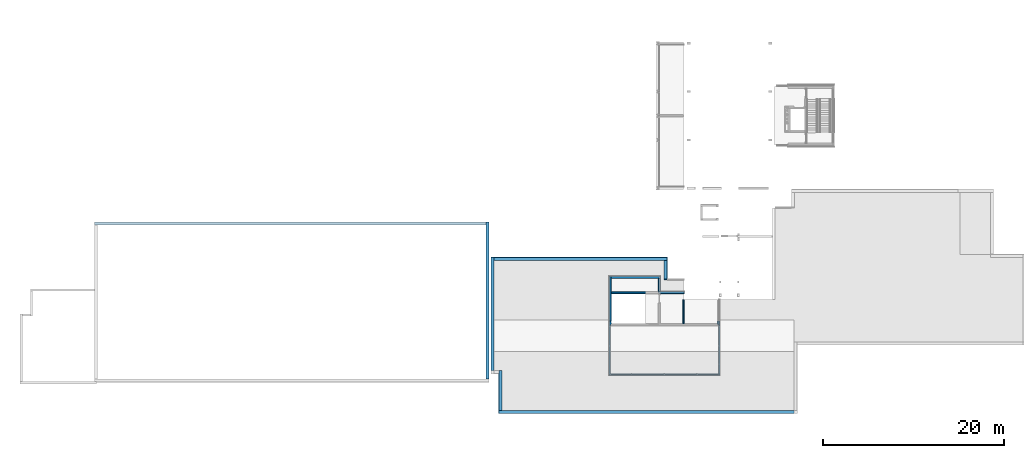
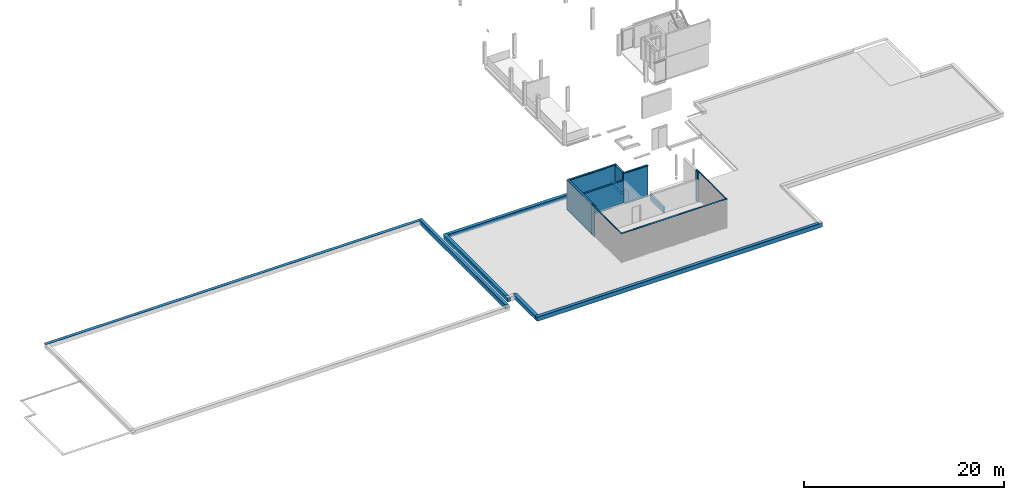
# One storey, part 4 of 22: 28 walls.
"""IFC2X3 building model written with IfcOpenShell, lengths in millimetres."""

from ifc_helpers import new_model, entity, si_unit, converted_unit, derived_unit, money_unit, direction, frame, origin_with_axes, place, context, subcontext, project, spatial, faceted_brep, material, type_object, element, save


model = new_model("IFC2X3")

# Units and contexts
model_context = context("Model", 3, precision=0.01, world=origin_with_axes(), true_north=direction((0.0, 1.0)))
body_context = subcontext(model_context, "Body", "Model", "MODEL_VIEW")
ifc_project = project(units=[si_unit("LENGTHUNIT", "METRE", prefix="MILLI"), si_unit("AREAUNIT", "SQUARE_METRE"), si_unit("VOLUMEUNIT", "CUBIC_METRE"), converted_unit("PLANEANGLEUNIT", "DEGREE", entity("IfcPlaneAngleMeasure", 0.0174532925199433), si_unit("PLANEANGLEUNIT", "RADIAN"), dimensions=[0, 0, 0, 0, 0, 0, 0]), money_unit("EUR"), converted_unit("TIMEUNIT", "Year", entity("IfcTimeMeasure", 31557600.0), si_unit("TIMEUNIT", "SECOND"), dimensions=[0, 0, 1, 0, 0, 0, 0]), si_unit("MASSUNIT", "GRAM", prefix="KILO"), si_unit("THERMODYNAMICTEMPERATUREUNIT", "DEGREE_CELSIUS"), si_unit("LUMINOUSINTENSITYUNIT", "LUMEN"), si_unit("ENERGYUNIT", "JOULE", prefix="MEGA"), derived_unit("THERMALCONDUCTANCEUNIT", [(si_unit("POWERUNIT", "WATT"), 1), (si_unit("LENGTHUNIT", "METRE"), -1), (si_unit("THERMODYNAMICTEMPERATUREUNIT", "KELVIN"), -1)]), derived_unit("SPECIFICHEATCAPACITYUNIT", [(si_unit("ENERGYUNIT", "JOULE"), 1), (si_unit("MASSUNIT", "GRAM", prefix="KILO"), -1), (si_unit("THERMODYNAMICTEMPERATUREUNIT", "KELVIN"), -1)]), derived_unit("MASSDENSITYUNIT", [(si_unit("MASSUNIT", "GRAM", prefix="KILO"), 1), (si_unit("VOLUMEUNIT", "CUBIC_METRE"), -1)])], contexts=[model_context])

# Site, building, storey
site_placement = place(None, origin_with_axes())
site = spatial("IfcSite", under=ifc_project, at=site_placement, Name="Site", CompositionType="ELEMENT")
building_placement = place(site_placement, origin_with_axes())
building = spatial("IfcBuilding", under=site, at=building_placement, Name="Naam gebouw", CompositionType="ELEMENT")
storey_placement = place(building_placement, frame((0.0, 0.0, 11150.0), z_axis=(0.0, 0.0, 1.0), x_axis=(1.0, 0.0, 0.0)))
storey = spatial("IfcBuildingStorey", under=building, at=storey_placement, Name="3e verdieping/dak N", CompositionType="ELEMENT", Elevation=11150.0)

# Walls
ifc_material_1 = material(Name="ALG - CONSTRUCTIEF")
wall_type_1 = type_object("IfcWallType", Name="ALG - CONSTRUCTIEF 200", PredefinedType="NOTDEFINED")
wall_1_placement = place(storey_placement, frame((20536.0, 16315.91242510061, 0.0), z_axis=(0.0, 0.0, 1.0), x_axis=(-1.0, 0.0, 0.0)))
element("IfcWall", 1, at=wall_1_placement, inside=storey, type_object=wall_type_1, material=ifc_material_1, Name="_Wand-x", context=body_context, shape_type="Brep", body=[
    faceted_brep([(2978.260226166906, -199.9999999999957, 0.0), (2978.260226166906, -199.9999999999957, 151.9999999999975), (3178.260226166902, -199.9999999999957, 151.9999999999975), (3178.260226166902, -199.9999999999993, 3740.0), (330.0000000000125, -199.9999999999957, 3740.0), (330.0000000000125, -199.9999999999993, 0.0), (2978.260226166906, 0.0, 0.0), (2978.260226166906, 0.0, 151.9999999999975), (3178.260226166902, 0.0, 151.9999999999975), (3178.260226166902, 0.0, 3740.0), (330.0000000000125, 0.0, 3740.0), (330.0000000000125, 0.0, 0.0)], [[[0, 1, 2, 3, 4, 5]], [[6, 7, 1, 0]], [[8, 2, 1, 7]], [[3, 2, 8, 9]], [[3, 9, 10, 4]], [[5, 4, 10, 11]], [[11, 6, 0, 5]], [[8, 7, 6, 11, 10, 9]]]),
])
wall_2_placement = place(storey_placement, frame((17357.7397738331, 18015.91242510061, 0.0), z_axis=(0.0, 0.0, 1.0), x_axis=(0.0, -1.0, 0.0)))
element("IfcWall", 2, at=wall_2_placement, inside=storey, type_object=wall_type_1, material=ifc_material_1, Name="_Wand-x", context=body_context, shape_type="Brep", body=[
    faceted_brep([(0.0, 199.9999999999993, 3740.0), (0.0, 0.0, 3740.0), (1500.0, 0.0, 3740.0), (1500.0, 199.9999999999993, 3740.0), (0.0, 199.9999999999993, 0.0), (0.0, 0.0, 0.0), (1499.999999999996, 0.0, 0.0), (1500.0, 0.0, 2880.000000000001), (1499.999999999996, 199.9999999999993, 0.0)], [[[0, 1, 2, 3]], [[4, 5, 1, 0]], [[5, 6, 7, 2, 1]], [[6, 8, 3, 2, 7]], [[4, 0, 3, 8]], [[5, 4, 8, 6]]]),
])
wall_3_placement = place(storey_placement, frame((17357.7397738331, 18015.91242510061, 0.0), z_axis=(0.0, 0.0, 1.0), x_axis=(-1.0, 0.0, 0.0)))
element("IfcWall", 3, at=wall_3_placement, inside=storey, type_object=wall_type_1, material=ifc_material_1, Name="_Wand-x", context=body_context, shape_type="Brep", body=[
    faceted_brep([(5199.999999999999, -199.9999999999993, 3740.0), (5199.999999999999, 0.0, 3740.0), (-199.9999999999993, 0.0, 3740.0), (-199.9999999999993, -199.9999999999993, 3740.0), (5199.999999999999, -199.9999999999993, 0.0), (5199.999999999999, 0.0, 0.0), (-199.9999999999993, 0.0, 0.0), (-199.9999999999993, -199.9999999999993, 0.0)], [[[0, 1, 2, 3]], [[1, 0, 4, 5]], [[1, 5, 6, 2]], [[7, 3, 2, 6]], [[4, 0, 3, 7]], [[5, 4, 7, 6]]]),
])
wall_4_placement = place(storey_placement, frame((20040.99999999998, 15670.91242510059, 0.0), z_axis=(0.0, 0.0, 1.0), x_axis=(0.0, -1.0, 0.0)))
element("IfcWall", 4, at=wall_4_placement, inside=storey, type_object=wall_type_1, material=ifc_material_1, Name="_Wand-x", context=body_context, shape_type="Brep", body=[
    faceted_brep([(2676.304385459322, 199.9999999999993, 0.0), (2676.304385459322, 0.0, 0.0), (0.0, 0.0, 0.0), (0.0, 199.9999999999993, 0.0), (2676.304385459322, 199.9999999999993, 699.9999999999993), (2676.304385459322, 0.0, 699.9999999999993), (0.0, 0.0, 699.9999999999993), (0.0, 199.9999999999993, 699.9999999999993)], [[[0, 1, 2, 3]], [[1, 0, 4, 5]], [[1, 5, 6, 2]], [[7, 3, 2, 6]], [[4, 0, 3, 7]], [[5, 4, 7, 6]]]),
])
wall_5_placement = place(storey_placement, frame((12157.7397738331, 18015.91242510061, 0.0), z_axis=(0.0, 0.0, 1.0), x_axis=(0.0, -1.0, 0.0)))
element("IfcWall", 5, at=wall_5_placement, inside=storey, type_object=wall_type_1, material=ifc_material_1, Name="_Wand-x", context=body_context, shape_type="Brep", body=[
    faceted_brep([(4724.999999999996, 0.0, 2880.000000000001), (4725.396955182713, -99.99999999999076, 2880.000000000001), (4725.396955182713, -99.99999999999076, 3080.0), (4724.999999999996, 0.0, 3080.0), (4724.999999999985, 0.0, 3740.0), (4725.793910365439, -199.9999999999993, 3740.0), (4725.793910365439, -199.9999999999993, 151.9999999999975), (4725.752488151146, -189.5650148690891, 151.9999999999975), (4725.752488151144, -189.5650148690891, 0.0), (4724.999999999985, 0.0, 0.0), (4724.999999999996, -99.99999999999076, 2880.000000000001), (4724.999999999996, -99.99999999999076, 3080.0), (-199.9999999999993, 0.0, 0.0), (-199.9999999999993, 0.0, 3740.0), (-199.9999999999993, -199.9999999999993, 3740.0), (4349.282488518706, -199.9999999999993, 0.0), (4349.282488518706, -199.9999999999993, 151.9999999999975), (-199.9999999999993, -199.9999999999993, 0.0)], [[[0, 1, 2, 3, 4, 5, 6, 7, 8, 9]], [[10, 1, 0]], [[11, 2, 1, 10]], [[11, 3, 2]], [[4, 3, 0, 9, 12, 13]], [[13, 14, 5, 4]], [[15, 16, 6, 5, 14, 17]], [[16, 7, 6]], [[8, 7, 16, 15]], [[9, 8, 15, 17, 12]], [[10, 0, 3, 11]], [[17, 14, 13, 12]]]),
])
wall_6_placement = place(storey_placement, frame((12157.7397738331, 13290.91242510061, 0.0), z_axis=(0.0, 0.0, 1.0), x_axis=(0.008006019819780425, -0.9999679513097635, 0.0)))
element("IfcWall", 6, at=wall_6_placement, inside=storey, type_object=wall_type_1, material=ifc_material_1, Name="_Wand-x", context=body_context, shape_type="Brep", body=[
    faceted_brep([(513.4010887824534, -178.253908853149, 2880.000000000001), (507.1048143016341, -104.063226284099, 2880.000000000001), (507.1048143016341, -104.063226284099, 3080.0), (496.4886617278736, 21.02973275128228, 3080.0), (496.4886617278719, 21.02973275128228, 3740.0), (513.4010887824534, -178.253908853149, 3740.0), (494.8808371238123, -179.7907887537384, 2880.000000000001), (495.4878775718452, -103.9702178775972, 2880.000000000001), (413.8185455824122, -103.3163506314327, 2880.000000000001), (-0.4036593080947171, -99.9999731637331, 2880.000000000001), (-0.4036593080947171, -99.9999731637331, 3080.0), (121.3672540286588, 0.0, 3080.0), (363.894408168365, 10.03099729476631, 3080.0), (0.0, 0.0, 3080.0), (363.894408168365, 10.03099729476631, 3740.0), (376.2901346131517, -189.6273060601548, 3740.0), (376.2901346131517, -189.6273060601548, 151.9999999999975), (494.8807865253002, -179.797108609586, 151.9999999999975), (296.6243121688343, 7.248685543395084, 2880.000000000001), (121.3672540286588, 0.0, 2880.000000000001), (0.0, 0.0, 2880.000000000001), (0.0, 0.0, 0.0), (-0.7651970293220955, -189.5649639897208, 0.0), (-0.7651970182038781, -189.5649639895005, 151.9999999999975), (-0.807318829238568, -199.9999463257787, 151.9999999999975), (-0.807318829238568, -199.9999463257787, 3740.0), (0.0, 0.0, 3740.0), (121.3672540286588, 0.0, 3740.0), (125.5015172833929, -200.0000000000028, 3740.0), (125.5015172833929, -200.0000000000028, 151.9999999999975), (0.0, -200.0000000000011, 151.9999999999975), (296.6243121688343, 7.248685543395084, 0.0), (494.8807865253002, -179.797108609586, 0.0), (368.2633340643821, -60.33941106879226, 0.0), (121.3672540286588, 0.0, 0.0), (0.0, -189.5498840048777, 0.0), (125.2344820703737, -187.0818476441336, 0.0), (375.8254966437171, -182.1433696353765, 0.0), (0.0, -200.0000000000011, 3740.0)], [[[0, 1, 2, 3, 4, 5]], [[6, 7, 1, 0]], [[8, 9, 10, 2, 1, 7]], [[11, 12, 3, 2, 10, 13]], [[4, 3, 12, 14]], [[14, 15, 5, 4]], [[5, 15, 16, 17, 6, 0]], [[6, 8, 7]], [[8, 18, 19, 20, 9]], [[10, 9, 20, 21, 22, 23, 24, 25, 26, 13]], [[14, 12, 11, 27]], [[27, 11, 13, 26]], [[28, 15, 14, 27]], [[15, 28, 29, 16]], [[24, 23, 17, 16, 29, 30]], [[31, 18, 8, 6, 17, 32, 33]], [[34, 19, 18, 31]], [[21, 20, 19, 34]], [[35, 22, 21]], [[36, 37, 32, 17, 23, 22, 35]], [[38, 25, 24, 30]], [[26, 25, 38]], [[38, 28, 27, 26]], [[28, 38, 30, 29]], [[32, 37, 33]], [[34, 31, 33, 37, 36]], [[35, 21, 34, 36]]]),
])
wall_type_2 = type_object("IfcWallType", Name="ALG - CONSTRUCTIEF 330", PredefinedType="NOTDEFINED")
wall_7_placement = place(storey_placement, frame((-770.0761052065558, 19995.81519889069, -99.99999999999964), z_axis=(0.0, 0.0, 1.0), x_axis=(0.0, -1.0, 0.0)))
element("IfcWall", 7, at=wall_7_placement, inside=storey, type_object=wall_type_2, material=ifc_material_1, Name="_Wand-x", context=body_context, shape_type="Brep", body=[
    faceted_brep([(12490.03535665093, 0.0, 0.0), (12300.22595577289, 0.0, 0.0), (12300.22595577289, 0.0, 99.99999999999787), (-100.0972262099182, 0.0, 99.99999999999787), (-100.0972262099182, 0.0, 0.0), (-330.0000000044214, 0.0, 0.0), (-330.0000000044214, 0.0, 500.0), (12490.03535665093, 0.0, 500.0), (-100.0972262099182, -114.3515342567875, 0.0), (12300.22595577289, -114.3515342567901, 0.0), (12490.03535665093, -330.0000000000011, 0.0), (-329.9982906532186, -329.9999999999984, 0.0), (12300.22595577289, -114.3515342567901, 99.99999999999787), (-100.0972262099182, -114.3515342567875, 99.99999999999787), (-329.9982906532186, -329.9999999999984, 500.0), (12490.03535665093, -330.0000000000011, 500.0)], [[[0, 1, 2, 3, 4, 5, 6, 7]], [[8, 9, 1, 0, 10, 11, 5, 4]], [[12, 2, 1, 9]], [[13, 3, 2, 12]], [[8, 4, 3, 13]], [[5, 11, 14, 6]], [[14, 15, 7, 6]], [[0, 7, 15, 10]], [[12, 9, 8, 13]], [[11, 10, 15, 14]]]),
])
wall_8_placement = place(storey_placement, frame((100.0000478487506, 3445.658971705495, -99.99999999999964), z_axis=(0.0, 0.0, 1.0), x_axis=(1.0, 0.0, 0.0)))
element("IfcWall", 8, at=wall_8_placement, inside=storey, type_object=wall_type_2, material=ifc_material_1, Name="_Wand-x", context=body_context, shape_type="Brep", body=[
    faceted_brep([(32299.99995215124, 0.0, 99.99999999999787), (-100.0000478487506, 0.0, 99.99999999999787), (-100.0000478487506, 0.0, 0.0), (-330.0000000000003, 0.0, 0.0), (-330.0000000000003, 0.0, 500.0), (32575.47021222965, 0.0, 500.0), (32575.47021222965, 0.0, 0.0), (32299.99995215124, 0.0, 0.0), (-100.0000478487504, -149.7465466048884, 99.99999999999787), (32299.99995215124, -149.7465466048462, 99.99999999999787), (-100.0000478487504, -149.7465466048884, 0.0), (32299.99995215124, -149.7465466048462, 0.0), (32575.47021222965, -329.9999999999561, 0.0), (-329.9999999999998, -330.000000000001, 0.0), (-329.9999999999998, -330.000000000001, 500.0), (32575.47021222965, -329.9999999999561, 500.0)], [[[0, 1, 2, 3, 4, 5, 6, 7]], [[8, 1, 0, 9]], [[10, 2, 1, 8]], [[10, 11, 7, 6, 12, 13, 3, 2]], [[3, 13, 14, 4]], [[14, 15, 5, 4]], [[6, 5, 15, 12]], [[9, 0, 7, 11]], [[9, 11, 10, 8]], [[13, 12, 15, 14]]]),
])
wall_9_placement = place(storey_placement, frame((17999.99828681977, 19995.91242510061, -99.99999999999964), z_axis=(0.0, 0.0, 1.0), x_axis=(-0.9999999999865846, -5.17985213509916e-06, 0.0)))
element("IfcWall", 9, at=wall_9_placement, inside=storey, type_object=wall_type_2, material=ifc_material_1, Name="_Wand-x", context=body_context, shape_type="Brep", body=[
    faceted_brep([(-164.4100515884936, 0.0, 0.0), (-164.4105695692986, -99.99914837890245, 0.0), (18770.07387378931, -100.0972262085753, 0.0), (18770.07268292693, -330.0000000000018, 0.0), (-330.0017093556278, -329.9999999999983, 0.0), (-330.000000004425, 0.0, 0.0), (-164.4105695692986, -99.99914837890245, 99.99999999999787), (-164.4100515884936, 0.0, 99.99999999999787), (18770.07387378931, -100.0972262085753, 99.99999999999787), (18770.07439227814, 0.0, 99.99999999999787), (18770.07439227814, 0.0, 500.0), (18770.07268292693, -330.0000000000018, 500.0), (-330.0017093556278, -329.9999999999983, 500.0), (-330.000000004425, 0.0, 500.0)], [[[0, 1, 2, 3, 4, 5]], [[6, 1, 0, 7]], [[8, 2, 1, 6]], [[2, 8, 9, 10, 11, 3]], [[4, 3, 11, 12]], [[5, 4, 12, 13]], [[9, 7, 0, 5, 13, 10]], [[6, 7, 9, 8]], [[12, 11, 10, 13]]]),
])
wall_10_placement = place(storey_placement, frame((-1679.99999997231, 6895.930935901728, -439.9999999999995), z_axis=(0.0, 0.0, 1.0), x_axis=(0.0, 1.0, 0.0)))
element("IfcWall", 10, at=wall_10_placement, inside=storey, type_object=wall_type_2, material=ifc_material_1, Name="_Wand-x", context=body_context, shape_type="Brep", body=[
    faceted_brep([(17319.64408847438, -329.9999999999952, 500.0), (17319.64408847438, 0.0, 500.0), (0.0, 0.0, 500.0), (0.002733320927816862, -329.9999999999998, 500.0), (17319.64408847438, -329.9999999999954, 0.0), (17319.64408847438, 0.0, 0.0), (0.0, 0.0, 0.0), (0.002733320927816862, -330.0000000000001, 0.0)], [[[0, 1, 2, 3]], [[1, 0, 4, 5]], [[1, 5, 6, 2]], [[7, 3, 2, 6]], [[4, 0, 3, 7]], [[5, 4, 7, 6]]]),
])
ifc_material_2 = material(Name="ALG - BINNENBLAD")
wall_type_3 = type_object("IfcWallType", Name="ALG - BINNENBLAD 200", PredefinedType="NOTDEFINED")
wall_11_placement = place(storey_placement, frame((17357.7397738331, 16315.91242510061, 0.0), z_axis=(0.0, 0.0, 1.0), x_axis=(-1.0, 0.0, 0.0)))
element("IfcWall", 11, at=wall_11_placement, inside=storey, type_object=wall_type_3, material=ifc_material_2, Name="_Wand-x", context=body_context, shape_type="Brep", body=[
    faceted_brep([(0.0, 0.0, 2880.000000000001), (0.0, 0.0, 153.9999999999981), (0.0, -199.9999999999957, 153.9999999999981), (0.0, -199.9999999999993, 2880.000000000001), (1417.239255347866, 0.0, 0.0), (1417.239255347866, 0.0, 153.9999999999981), (5199.999999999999, 0.0, 2880.000000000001), (5199.999999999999, 0.0, 0.0), (1417.239255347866, -199.9999999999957, 153.9999999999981), (1417.239255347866, -199.9999999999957, 0.0), (5199.999999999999, -199.9999999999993, 0.0), (5199.999999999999, -199.9999999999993, 2880.000000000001)], [[[0, 1, 2, 3]], [[4, 5, 1, 0, 6, 7]], [[5, 8, 2, 1]], [[2, 8, 9, 10, 11, 3]], [[11, 6, 0, 3]], [[9, 8, 5, 4]], [[11, 10, 7, 6]], [[10, 9, 4, 7]]]),
])
ifc_material_3 = material(Name="ALG - BUITENAFWERKING")
wall_type_4 = type_object("IfcWallType", Name="ALG - BUITENAFWERKING 360", PredefinedType="NOTDEFINED")
wall_12_placement = place(storey_placement, frame((100.0000478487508, 7835.779842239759, 400.0000000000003), z_axis=(0.0, 0.0, 1.0), x_axis=(0.0, -1.0, 0.0)))
element("IfcWall", 12, at=wall_12_placement, inside=storey, type_object=wall_type_4, material=ifc_material_3, Name="_Wand-x", context=body_context, shape_type="Brep", body=[
    faceted_brep([(4390.137933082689, -360.0000000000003, 25.00000000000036), (4390.134951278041, 0.0, 25.00000000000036), (0.0, 0.0, 25.00000000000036), (0.0, -360.0, 25.00000000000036), (4390.137933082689, -360.0000000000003, 0.0), (4390.134951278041, 0.0, 0.0), (0.0, 0.0, 0.0), (0.0, -360.0, 0.0)], [[[0, 1, 2, 3]], [[1, 0, 4, 5]], [[1, 5, 6, 2]], [[7, 3, 2, 6]], [[4, 0, 3, 7]], [[5, 4, 7, 6]]]),
])
wall_13_placement = place(storey_placement, frame((17999.99828681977, 19995.91242510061, 400.0000000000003), z_axis=(0.0, 0.0, 1.0), x_axis=(0.0, -1.0, 0.0)))
element("IfcWall", 13, at=wall_13_placement, inside=storey, type_object=wall_type_4, material=ifc_material_3, Name="_Wand-x", context=body_context, shape_type="Brep", body=[
    faceted_brep([(2171.161198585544, 359.9999999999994, 0.0), (2171.161198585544, 0.0, 0.0), (0.0, 0.0, 0.0), (-0.001864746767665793, 359.9999999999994, 0.0), (2171.161198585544, 359.9999999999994, 25.00000000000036), (2171.161198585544, 0.0, 25.00000000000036), (0.0, 0.0, 25.00000000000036), (-0.001864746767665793, 359.9999999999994, 25.00000000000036)], [[[0, 1, 2, 3]], [[1, 0, 4, 5]], [[1, 5, 6, 2]], [[7, 3, 2, 6]], [[4, 0, 3, 7]], [[5, 4, 7, 6]]]),
])
wall_14_placement = place(storey_placement, frame((100.0000478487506, 3445.644890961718, 400.0000000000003), z_axis=(0.0, 0.0, 1.0), x_axis=(0.9999999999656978, 8.282790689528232e-06, 0.0)))
element("IfcWall", 14, at=wall_14_placement, inside=storey, type_object=wall_type_4, material=ifc_material_3, Name="_Wand-x", context=body_context, shape_type="Brep", body=[
    faceted_brep([(32245.4672293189, -360.2670824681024, 25.00000000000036), (32245.47021112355, -0.2670824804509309, 25.00000000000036), (-359.9999999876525, 0.002981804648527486, 25.00000000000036), (-360.0029817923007, -359.9970181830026, 25.00000000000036), (32245.4672293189, -360.2670824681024, 0.0), (32245.47021112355, -0.2670824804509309, 0.0), (-359.9999999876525, 0.002981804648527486, 0.0), (-360.0029817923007, -359.9970181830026, 0.0)], [[[0, 1, 2, 3]], [[1, 0, 4, 5]], [[1, 5, 6, 2]], [[7, 3, 2, 6]], [[4, 0, 3, 7]], [[5, 4, 7, 6]]]),
])
wall_15_placement = place(storey_placement, frame((-770.0761052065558, 19995.81519889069, 400.0000000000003), z_axis=(0.0, 0.0, 1.0), x_axis=(0.0, -1.0, 0.0)))
element("IfcWall", 15, at=wall_15_placement, inside=storey, type_object=wall_type_4, material=ifc_material_3, Name="_Wand-x", context=body_context, shape_type="Brep", body=[
    faceted_brep([(12160.03535665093, -360.0000000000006, 25.00000000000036), (12160.03535665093, 0.0, 25.00000000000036), (-360.0000000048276, 0.0, 25.00000000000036), (-359.9981352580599, -360.0, 25.00000000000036), (12160.03535665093, -360.0000000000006, 0.0), (12160.03535665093, 0.0, 0.0), (-360.0000000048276, 0.0, 0.0), (-359.9981352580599, -360.0, 0.0)], [[[0, 1, 2, 3]], [[1, 0, 4, 5]], [[1, 5, 6, 2]], [[7, 3, 2, 6]], [[4, 0, 3, 7]], [[5, 4, 7, 6]]]),
])
wall_16_placement = place(storey_placement, frame((17999.99828681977, 19995.91242510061, 400.0000000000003), z_axis=(0.0, 0.0, 1.0), x_axis=(-0.9999999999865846, -5.17985213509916e-06, 0.0)))
element("IfcWall", 16, at=wall_16_placement, inside=storey, type_object=wall_type_4, material=ifc_material_3, Name="_Wand-x", context=body_context, shape_type="Brep", body=[
    faceted_brep([(18770.07252753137, -359.9999999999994, 25.00000000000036), (18770.07439227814, 0.0, 25.00000000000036), (-360.0000000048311, 0.0, 25.00000000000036), (-360.0018647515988, -359.9999999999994, 25.00000000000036), (18770.07252753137, -359.9999999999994, 0.0), (18770.07439227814, 0.0, 0.0), (-360.0000000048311, 0.0, 0.0), (-360.0018647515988, -359.9999999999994, 0.0)], [[[0, 1, 2, 3]], [[1, 0, 4, 5]], [[1, 5, 6, 2]], [[7, 3, 2, 6]], [[4, 0, 3, 7]], [[5, 4, 7, 6]]]),
])
wall_17_placement = place(storey_placement, frame((-1679.99999997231, 6895.930935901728, 60.0000000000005), z_axis=(0.0, 0.0, 1.0), x_axis=(0.0, 1.0, 0.0)))
element("IfcWall", 17, at=wall_17_placement, inside=storey, type_object=wall_type_4, material=ifc_material_3, Name="_Wand-x", context=body_context, shape_type="Brep", body=[
    faceted_brep([(17349.64408847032, -359.9999999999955, 25.00000000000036), (17349.64408847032, 0.0, 25.00000000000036), (0.0, 0.0, 25.00000000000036), (0.002981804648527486, -360.0000000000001, 25.00000000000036), (17349.64408847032, -359.9999999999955, 0.0), (17349.64408847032, 0.0, 0.0), (0.0, 0.0, 0.0), (0.002981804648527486, -360.0000000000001, 0.0)], [[[0, 1, 2, 3]], [[1, 0, 4, 5]], [[1, 5, 6, 2]], [[7, 3, 2, 6]], [[4, 0, 3, 7]], [[5, 4, 7, 6]]]),
])
wall_18_placement = place(storey_placement, frame((-1679.999999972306, 23885.57502437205, 60.0000000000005), z_axis=(0.0, 0.0, 1.0), x_axis=(-1.0, 0.0, 0.0)))
element("IfcWall", 18, at=wall_18_placement, inside=storey, type_object=wall_type_4, material=ifc_material_3, Name="_Wand-x", context=body_context, shape_type="Brep", body=[
    faceted_brep([(43200.00000017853, -359.9999999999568, 25.00000000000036), (43200.00000017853, 0.0, 25.00000000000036), (0.0, 0.0, 25.00000000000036), (0.0, -359.9999999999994, 25.00000000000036), (43200.00000017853, -359.9999999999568, 0.0), (43200.00000017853, 0.0, 0.0), (0.0, 0.0, 0.0), (0.0, -359.9999999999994, 0.0)], [[[0, 1, 2, 3]], [[1, 0, 4, 5]], [[1, 5, 6, 2]], [[7, 3, 2, 6]], [[4, 0, 3, 7]], [[5, 4, 7, 6]]]),
])
wall_type_5 = type_object("IfcWallType", Name="ALG - BUITENAFWERKING 140", PredefinedType="NOTDEFINED")
wall_19_placement = place(storey_placement, frame((12057.73977383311, 7464.608039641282, 3740.0), z_axis=(0.0, 0.0, 1.0), x_axis=(1.0, 0.0, 0.0)))
element("IfcWall", 19, at=wall_19_placement, inside=storey, type_object=wall_type_5, material=ifc_material_3, Name="_Wand-x", context=body_context, shape_type="Brep", body=[
    faceted_brep([(12084.21655015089, -139.9999999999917, 25.00000000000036), (12084.21655015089, 0.0, 25.00000000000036), (-140.0000000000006, 0.0, 25.00000000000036), (-140.0000000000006, -139.9999999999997, 25.00000000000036), (12084.21655015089, -139.9999999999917, 0.0), (12084.21655015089, 0.0, 0.0), (-140.0000000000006, 0.0, 0.0), (-140.0000000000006, -139.9999999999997, 0.0)], [[[0, 1, 2, 3]], [[1, 0, 4, 5]], [[1, 5, 6, 2]], [[7, 3, 2, 6]], [[4, 0, 3, 7]], [[5, 4, 7, 6]]]),
])
wall_20_placement = place(storey_placement, frame((24001.95632398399, 7464.608039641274, 3740.0), z_axis=(0.0, 0.0, 1.0), x_axis=(0.0, 1.0, 0.0)))
element("IfcWall", 20, at=wall_20_placement, inside=storey, type_object=wall_type_5, material=ifc_material_3, Name="_Wand-x", context=body_context, shape_type="Brep", body=[
    faceted_brep([(0.0, -140.0000000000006, 25.00000000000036), (5826.304385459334, -139.999999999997, 25.00000000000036), (5826.304385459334, 0.0, 25.00000000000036), (0.0, 0.0, 25.00000000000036), (0.0, -140.0000000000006, 0.0), (5826.304385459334, -139.999999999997, 0.0), (5826.304385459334, 0.0, 0.0), (0.0, 0.0, 0.0)], [[[0, 1, 2, 3]], [[4, 5, 1, 0]], [[2, 1, 5, 6]], [[3, 2, 6, 7]], [[4, 0, 3, 7]], [[7, 6, 5, 4]]]),
])
wall_21_placement = place(storey_placement, frame((12057.73977383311, 13290.91242510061, 3740.0), z_axis=(0.0, 0.0, 1.0), x_axis=(0.0, -1.0, 0.0)))
element("IfcWall", 21, at=wall_21_placement, inside=storey, type_object=wall_type_5, material=ifc_material_3, Name="_Wand-x", context=body_context, shape_type="Brep", body=[
    faceted_brep([(5826.304385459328, -139.9999999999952, 25.00000000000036), (5826.304385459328, 0.0, 25.00000000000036), (0.0, 0.0, 25.00000000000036), (0.0, -140.0000000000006, 25.00000000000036), (5826.304385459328, -139.9999999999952, 0.0), (5826.304385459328, 0.0, 0.0), (0.0, 0.0, 0.0), (0.0, -140.0000000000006, 0.0)], [[[0, 1, 2, 3]], [[1, 0, 4, 5]], [[1, 5, 6, 2]], [[7, 3, 2, 6]], [[4, 0, 3, 7]], [[5, 4, 7, 6]]]),
])
ifc_material_4 = material(Name="ALG - ALGEMEEN")
wall_type_6 = type_object("IfcWallType", Name="ALG - ALGEMEEN 330", PredefinedType="NOTDEFINED")
wall_22_placement = place(storey_placement, frame((100.0000478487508, 7835.779842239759, -99.99999999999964), z_axis=(0.0, 0.0, 1.0), x_axis=(0.0, -1.0, 0.0)))
element("IfcWall", 22, at=wall_22_placement, inside=storey, type_object=wall_type_6, material=ifc_material_4, Name="_Wand-x", context=body_context, shape_type="Brep", body=[
    faceted_brep([(4390.120870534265, 0.0, 500.0), (4390.120870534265, 0.0, 99.99999999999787), (0.0, 0.0, 99.99999999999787), (0.0, 0.0, 500.0), (4390.120870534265, -100.0000478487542, 0.0), (4390.120870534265, -100.0000478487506, 99.99999999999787), (4390.120870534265, -330.0000000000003, 500.0), (4390.120870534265, -330.0000000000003, 0.0), (140.1905991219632, -330.0000000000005, 99.99999999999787), (0.0, -330.0000000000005, 99.99999999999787), (140.1905991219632, -100.0000478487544, 99.99999999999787), (0.0, -330.0000000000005, 500.0), (140.1905991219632, -100.0000478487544, 0.0), (140.1905991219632, -330.0000000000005, 0.0)], [[[0, 1, 2, 3]], [[4, 5, 1, 0, 6, 7]], [[8, 9, 2, 1, 5, 10]], [[3, 2, 9, 11]], [[11, 6, 0, 3]], [[5, 4, 12, 10]], [[9, 8, 13, 7, 6, 11]], [[13, 12, 4, 7]], [[10, 12, 13, 8]]]),
])
wall_23_placement = place(storey_placement, frame((17999.99828681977, 19995.91242510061, -99.99999999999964), z_axis=(0.0, 0.0, 1.0), x_axis=(0.0, -1.0, 0.0)))
element("IfcWall", 23, at=wall_23_placement, inside=storey, type_object=wall_type_6, material=ifc_material_4, Name="_Wand-x", context=body_context, shape_type="Brep", body=[
    faceted_brep([(-0.0008516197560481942, 164.410051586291, 0.0), (-0.0008516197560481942, 164.410051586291, 99.99999999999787), (0.0, 0.0, 99.99999999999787), (0.0, 0.0, 500.0), (-0.001709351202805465, 330.0000000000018, 500.0), (-0.001709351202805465, 329.9999999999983, 0.0), (2071.161198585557, 164.410051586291, 99.99999999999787), (2071.161198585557, 164.410051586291, 0.0), (2071.161198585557, 0.0, 99.99999999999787), (2071.161198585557, 0.0, 500.0), (2071.161198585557, 329.9999999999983, 500.0), (2071.161198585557, 329.9999999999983, 0.0)], [[[0, 1, 2, 3, 4, 5]], [[6, 1, 0, 7]], [[8, 2, 1, 6]], [[3, 2, 8, 9]], [[3, 9, 10, 4]], [[4, 10, 11, 5]], [[11, 7, 0, 5]], [[8, 6, 7, 11, 10, 9]]]),
])
wall_type_7 = type_object("IfcWallType", Name="ALG - BUITENAFWERKING 230", PredefinedType="NOTDEFINED")
wall_24_placement = place(storey_placement, frame((12157.7397738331, 18015.91242510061, 3740.0), z_axis=(0.0, 0.0, 1.0), x_axis=(0.0, -1.0, 0.0)))
element("IfcWall", 24, at=wall_24_placement, inside=storey, type_object=wall_type_7, material=ifc_material_3, Name="_Wand-x", context=body_context, shape_type="Brep", body=[
    faceted_brep([(-230.0000000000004, -230.0000000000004, 25.00000000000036), (4724.999999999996, -230.0000000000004, 25.00000000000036), (4724.999999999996, 0.0, 25.00000000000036), (-230.0000000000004, 0.0, 25.00000000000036), (-230.0000000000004, -230.0000000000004, 0.0), (4724.999999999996, -230.0000000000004, 0.0), (4724.999999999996, 0.0, 0.0), (-230.0000000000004, 0.0, 0.0)], [[[0, 1, 2, 3]], [[4, 5, 1, 0]], [[2, 1, 5, 6]], [[3, 2, 6, 7]], [[4, 0, 3, 7]], [[7, 6, 5, 4]]]),
])
wall_25_placement = place(storey_placement, frame((20536.0, 16315.91242510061, 3740.0), z_axis=(0.0, 0.0, 1.0), x_axis=(-1.0, 0.0, 0.0)))
element("IfcWall", 25, at=wall_25_placement, inside=storey, type_object=wall_type_7, material=ifc_material_3, Name="_Wand-x", context=body_context, shape_type="Brep", body=[
    faceted_brep([(3178.260226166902, -230.0000000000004, 25.00000000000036), (3178.260226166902, 0.0, 25.00000000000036), (329.9999999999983, 0.0, 25.00000000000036), (329.9999999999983, -230.0000000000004, 25.00000000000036), (3178.260226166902, -230.0000000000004, 0.0), (3178.260226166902, 0.0, 0.0), (329.9999999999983, 0.0, 0.0), (329.9999999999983, -230.0000000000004, 0.0)], [[[0, 1, 2, 3]], [[1, 0, 4, 5]], [[1, 5, 6, 2]], [[7, 3, 2, 6]], [[4, 0, 3, 7]], [[5, 4, 7, 6]]]),
])
wall_26_placement = place(storey_placement, frame((17357.7397738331, 18015.91242510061, 3740.0), z_axis=(0.0, 0.0, 1.0), x_axis=(-1.0, 0.0, 0.0)))
element("IfcWall", 26, at=wall_26_placement, inside=storey, type_object=wall_type_7, material=ifc_material_3, Name="_Wand-x", context=body_context, shape_type="Brep", body=[
    faceted_brep([(5199.999999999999, -230.0000000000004, 25.00000000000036), (5199.999999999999, 0.0, 25.00000000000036), (-230.0000000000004, 0.0, 25.00000000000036), (-230.0000000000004, -230.0000000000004, 25.00000000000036), (5199.999999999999, -230.0000000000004, 0.0), (5199.999999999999, 0.0, 0.0), (-230.0000000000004, 0.0, 0.0), (-230.0000000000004, -230.0000000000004, 0.0)], [[[0, 1, 2, 3]], [[1, 0, 4, 5]], [[1, 5, 6, 2]], [[7, 3, 2, 6]], [[4, 0, 3, 7]], [[5, 4, 7, 6]]]),
])
wall_27_placement = place(storey_placement, frame((17357.7397738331, 18015.91242510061, 3740.0), z_axis=(0.0, 0.0, 1.0), x_axis=(0.0, -1.0, 0.0)))
element("IfcWall", 27, at=wall_27_placement, inside=storey, type_object=wall_type_7, material=ifc_material_3, Name="_Wand-x", context=body_context, shape_type="Brep", body=[
    faceted_brep([(1469.999999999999, 230.0000000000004, 0.0), (1469.999999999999, 0.0, 0.0), (0.0, 0.0, 0.0), (0.0, 230.0000000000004, 0.0), (1469.999999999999, 230.0000000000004, 25.00000000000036), (1469.999999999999, 0.0, 25.00000000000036), (0.0, 0.0, 25.00000000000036), (0.0, 230.0000000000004, 25.00000000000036)], [[[0, 1, 2, 3]], [[1, 0, 4, 5]], [[1, 5, 6, 2]], [[7, 3, 2, 6]], [[4, 0, 3, 7]], [[5, 4, 7, 6]]]),
])
wall_type_8 = type_object("IfcWallType", Name="ALG - CONSTRUCTIEF 165", PredefinedType="NOTDEFINED")
wall_28_placement = place(storey_placement, frame((23874.93575823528, 12794.60803964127, 0.0), z_axis=(0.0, 0.0, 1.0), x_axis=(0.09253676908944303, 0.9957092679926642, 0.0)))
element("IfcWall", 28, at=wall_28_placement, inside=storey, type_object=wall_type_8, material=ifc_material_1, Name="_Wand-x", context=body_context, shape_type="Brep", body=[
    faceted_brep([(374.1208824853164, -154.6871029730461, 151.9999999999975), (432.4348863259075, -149.8499378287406, 151.9999999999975), (432.434886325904, -149.8499378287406, 0.0), (510.4414140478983, -143.3792715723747, 0.0), (510.4414140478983, -143.3792715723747, 3740.0), (374.1208824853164, -154.6871029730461, 3740.0), (142.4770601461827, -49.37200785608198, 151.9999999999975), (124.7780212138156, -165.0000000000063, 151.9999999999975), (15.33436253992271, -165.0000000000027, 151.9999999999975), (15.33255281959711, -164.9805271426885, 151.9999999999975), (142.4770601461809, -49.37200785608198, 0.0), (372.5318159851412, -129.091965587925, 0.0), (363.8944081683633, 10.03099729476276, 0.0), (496.4886617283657, 21.02973275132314, 0.0), (510.9631130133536, -143.3360980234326, 0.0), (510.9631130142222, -143.3360980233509, 3740.0), (496.4886617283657, 21.02973275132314, 3740.0), (363.8944081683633, 10.03099729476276, 3740.0), (124.7780212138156, -165.0000000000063, 3740.0), (15.33436253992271, -165.0000000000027, 2880.000000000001), (0.0, -165.0000000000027, 3740.0), (0.0, -165.0000000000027, 2880.000000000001), (15.33255281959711, -164.9805271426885, 2880.000000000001), (122.7584648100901, -67.30150915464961, 2880.000000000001), (200.3692489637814, 3.267546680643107, 2880.000000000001), (200.3692489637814, 3.267546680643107, 0.0), (363.8944081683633, 10.03099729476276, 699.9999999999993), (496.4886617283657, 21.02973275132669, 699.9999999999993), (511.1041066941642, -143.322994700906, 0.0), (511.1041066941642, -143.322994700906, 3740.0), (496.4886617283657, 21.02973275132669, 1000.0), (363.8944081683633, 10.03099729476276, 1000.0), (121.367254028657, 0.0, 3740.0), (0.0, 0.0, 3740.0), (0.0, 0.0, 2880.000000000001), (121.367254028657, 0.0, 2880.000000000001), (200.5574497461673, 3.27533072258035, 1000.0), (200.5574497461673, 3.27533072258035, 699.9999999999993), (201.4556389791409, -6.389317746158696, 699.9999999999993), (201.4556389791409, -6.389317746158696, 1000.0)], [[[0, 1, 2, 3, 4, 5]], [[6, 1, 0, 7, 8, 9]], [[2, 1, 6, 10, 11]], [[3, 2, 11, 12, 13]], [[14, 15, 4, 3]], [[5, 4, 16, 17]], [[18, 7, 0, 5]], [[19, 8, 7, 18, 20, 21]], [[22, 9, 8, 19]], [[10, 6, 9, 22, 23, 24, 25]], [[12, 11, 10, 25]], [[12, 26, 27, 13]], [[14, 3, 13, 28]], [[15, 14, 28, 29]], [[4, 15, 29, 16]], [[16, 30, 31, 17]], [[18, 5, 17, 32]], [[18, 32, 33, 20]], [[33, 34, 21, 20]], [[22, 19, 21, 34]], [[34, 35, 23, 22]], [[35, 24, 23]], [[36, 37, 26, 12, 25, 24, 35, 32, 17, 31]], [[38, 27, 26, 37]], [[13, 27, 30, 16, 29, 28]], [[36, 31, 30, 39]], [[34, 33, 32, 35]], [[38, 37, 36, 39]], [[39, 30, 27, 38]]]),
])

save(model, "model.ifc")
